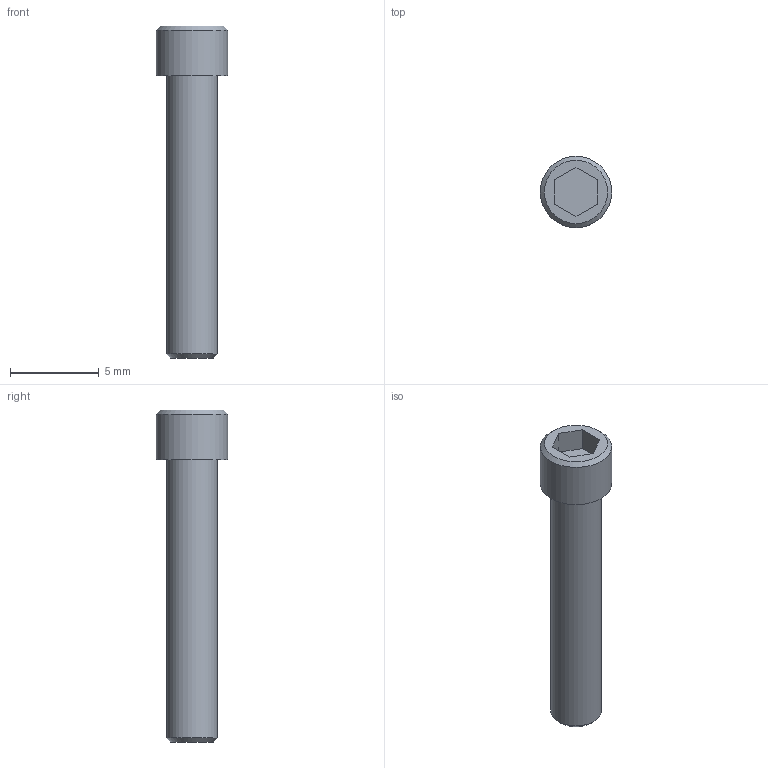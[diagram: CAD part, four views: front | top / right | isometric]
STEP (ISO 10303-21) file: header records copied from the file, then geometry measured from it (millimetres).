
FILE_DESCRIPTION((''),'2;1');
FILE_NAME('C:\Users\Stan\Desktop\import\SHCS 4-40 UNCx0.625.ipt.step','2011-08-18T17:44:31',(''),(''),'Autodesk Inventor 2012','Autodesk Inventor 2012','');
FILE_SCHEMA(('AUTOMOTIVE_DESIGN { 1 0 10303 214 1 1 1 1 }'));
Length unit declared in the file: inch
Products named in the file (1): SHCS 4-40 UNCx0.625
Bounding box: 4.01 x 4.01 x 18.67 mm (x, y, z)
Volume: 129.3 mm3; surface area: 210.1 mm2
Topology: 1 solids, 1 shells, 14 faces, 28 edges, 18 vertices
Faces by surface type: plane 10, cone 2, cylinder 2
Full cylindrical faces by diameter (mm): 2.845 x1, 4.013 x1
Entity records: 391 total; most frequent: DIRECTION 60, CARTESIAN_POINT 57, ORIENTED_EDGE 48, EDGE_CURVE 24, AXIS2_PLACEMENT_3D 21, EDGE_LOOP 20, VERTEX_POINT 18, VECTOR 18
